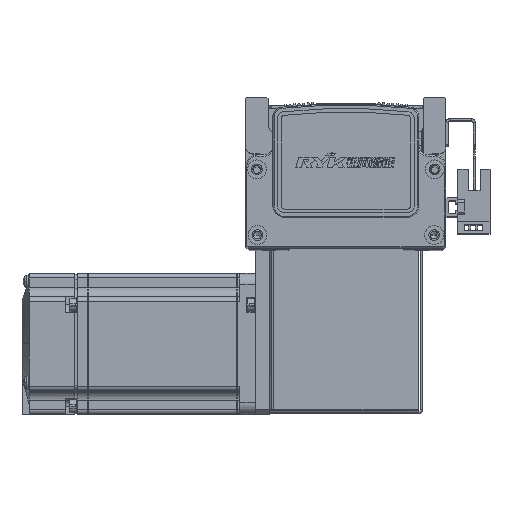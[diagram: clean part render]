
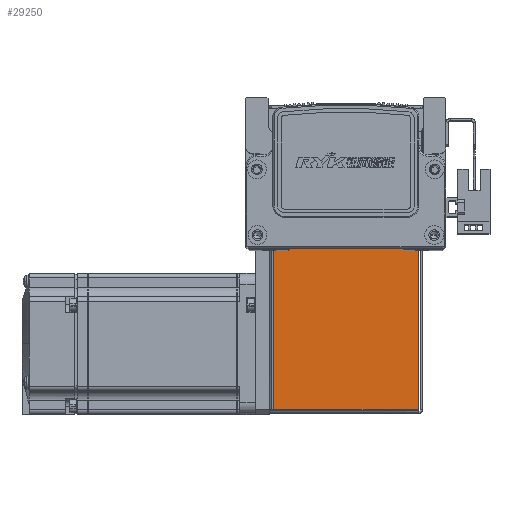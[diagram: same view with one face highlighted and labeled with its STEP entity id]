
A CAD part, top view. The second image highlights one B-rep face of the part: STEP entity #29250.
In plain terms, the highlighted planar face has unit normal (0, 0, 1) as drawn and (0, 0, -1) by its records, which use the part's own axes.
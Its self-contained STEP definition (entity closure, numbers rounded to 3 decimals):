
#9036 = LINE ( 'NONE', #44271, #9068 ) ;
#9068 = VECTOR ( 'NONE', #44253, 1000. ) ;
#9085 = VECTOR ( 'NONE', #44304, 1000. ) ;
#9090 = LINE ( 'NONE', #44300, #9110 ) ;
#9110 = VECTOR ( 'NONE', #44290, 1000. ) ;
#9120 = LINE ( 'NONE', #44291, #9085 ) ;
#9166 = LINE ( 'NONE', #44380, #9181 ) ;
#9181 = VECTOR ( 'NONE', #44388, 1000. ) ;
#18256 = CARTESIAN_POINT ( 'NONE',  ( -30.793, 72.5, -35. ) ) ;
#21720 = VERTEX_POINT ( 'NONE', #60189 ) ;
#21756 = VERTEX_POINT ( 'NONE', #60233 ) ;
#21795 = VERTEX_POINT ( 'NONE', #59539 ) ;
#22490 = VERTEX_POINT ( 'NONE', #18256 ) ;
#23934 = EDGE_LOOP ( 'NONE', ( #26983, #26957, #28153, #28143 ) ) ;
#26275 = AXIS2_PLACEMENT_3D ( 'NONE', #38786, #38754, #38796 ) ;
#26957 = ORIENTED_EDGE ( 'NONE', *, *, #62894, .F. ) ;
#26983 = ORIENTED_EDGE ( 'NONE', *, *, #62901, .T. ) ;
#28143 = ORIENTED_EDGE ( 'NONE', *, *, #62884, .T. ) ;
#28153 = ORIENTED_EDGE ( 'NONE', *, *, #62934, .T. ) ;
#29250 = ADVANCED_FACE ( 'NONE', ( #57490 ), #38760, .F. ) ;
#38754 = DIRECTION ( 'NONE',  ( 0., 0., 1. ) ) ;
#38760 = PLANE ( 'NONE',  #26275 ) ;
#38786 = CARTESIAN_POINT ( 'NONE',  ( 0., 0., -35. ) ) ;
#38796 = DIRECTION ( 'NONE',  ( 0., -1., 0. ) ) ;
#44253 = DIRECTION ( 'NONE',  ( 1., 0., 0. ) ) ;
#44271 = CARTESIAN_POINT ( 'NONE',  ( 0., 72.5, -35. ) ) ;
#44290 = DIRECTION ( 'NONE',  ( 0., -1., 0. ) ) ;
#44291 = CARTESIAN_POINT ( 'NONE',  ( 32.5, 0.737, -35. ) ) ;
#44300 = CARTESIAN_POINT ( 'NONE',  ( 30.763, 72.5, -35. ) ) ;
#44304 = DIRECTION ( 'NONE',  ( 1., 0., 0. ) ) ;
#44380 = CARTESIAN_POINT ( 'NONE',  ( -30.793, 0., -35. ) ) ;
#44388 = DIRECTION ( 'NONE',  ( 0., 1., 0. ) ) ;
#57490 = FACE_OUTER_BOUND ( 'NONE', #23934, .T. ) ;
#59539 = CARTESIAN_POINT ( 'NONE',  ( 30.763, 72.5, -35. ) ) ;
#60189 = CARTESIAN_POINT ( 'NONE',  ( 30.763, 0.737, -35. ) ) ;
#60233 = CARTESIAN_POINT ( 'NONE',  ( -30.793, 0.737, -35. ) ) ;
#62884 = EDGE_CURVE ( 'NONE', #22490, #21795, #9036, .T. ) ;
#62894 = EDGE_CURVE ( 'NONE', #21756, #21720, #9120, .T. ) ;
#62901 = EDGE_CURVE ( 'NONE', #21795, #21720, #9090, .T. ) ;
#62934 = EDGE_CURVE ( 'NONE', #21756, #22490, #9166, .T. ) ;
